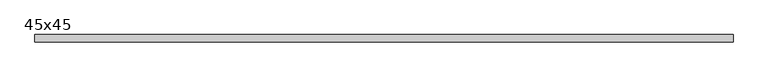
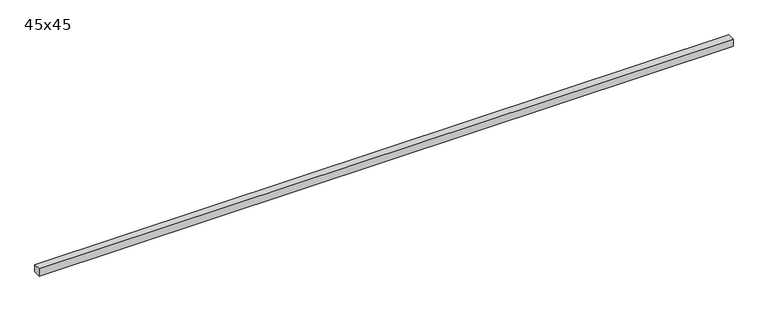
"""IFC4 building model written with IfcOpenShell, lengths in millimetres: beam geometry, Poutre - Bois d'oeuvre : 45x45."""

from ifc_helpers import new_model, si_unit, frame, origin, place, context, project, spatial, polyline, outline, extrude, source, transform, mapped, element, save


def beam_45x45_32f193ed(model_context):
    return source(origin(), model_context, "Body", "SweptSolid", [
        extrude(outline(polyline([(2114.0049357, 22.5), (2114.0049357, -22.5), (-2069.2028519, -22.5), (-2069.2028519, 22.5), (2114.0049357, 22.5)])), frame((0.0, 0.0, -22.5), z_axis=(0.0, 0.0, 1.0), x_axis=(1.0, 0.0, 0.0)), (0.0, 0.0, 1.0), 45.0),
    ])


if __name__ == "__main__":
    model = new_model("IFC4")
    model_context = context("Model", 3, world=origin())
    ifc_project = project(units=[si_unit("LENGTHUNIT", "METRE", prefix="MILLI")], contexts=[model_context])
    site = spatial("IfcSite", under=ifc_project)
    building = spatial("IfcBuilding", under=site)
    placement = place(None, origin())
    beam_45x45_shape = beam_45x45_32f193ed(model_context)
    element("IfcBeam", 1, ObjectType="Poutre - Bois d'oeuvre : 45x45", at=placement, inside=building, context=model_context, shape_type="MappedRepresentation", body=[
        mapped(beam_45x45_shape, transform((0.0, 0.0, 0.0), x_axis=(1.0, 0.0, 0.0), y_axis=(0.0, 1.0, 0.0), z_axis=(0.0, 0.0, 1.0))),
    ])
    save(model, "model.ifc")
